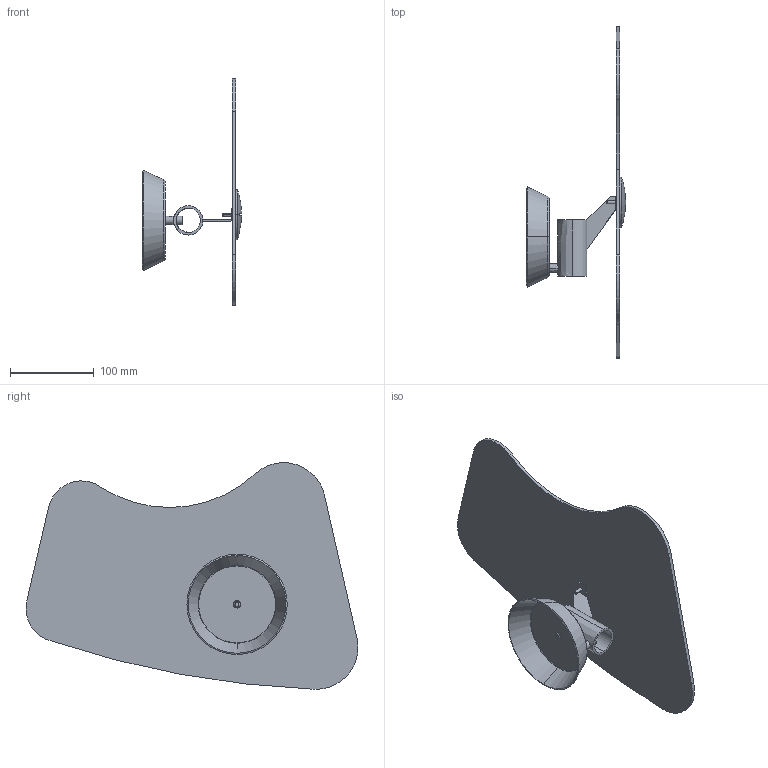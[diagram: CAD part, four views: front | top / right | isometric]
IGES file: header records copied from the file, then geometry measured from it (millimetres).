
Start section: SolidWorks IGES file using analytic representation for surfaces
Global section: file name: X:\stage\BIT\BIT 5.IGS; native system: SolidWorks 2006 by SolidWorks Corporation; preprocessor: SolidWorks 2006 by SolidWorks Corporation; author: stagetec; date: 060919.162511; units: millimetre
Bounding box: 118.39 x 396.33 x 270.7 mm (x, y, z)
Volume: 375697.5 mm3; surface area: 226555.3 mm2
Topology: 5 solids, 5 shells, 87 faces, 193 edges, 122 vertices
Faces by surface type: revolution 57, plane 30
